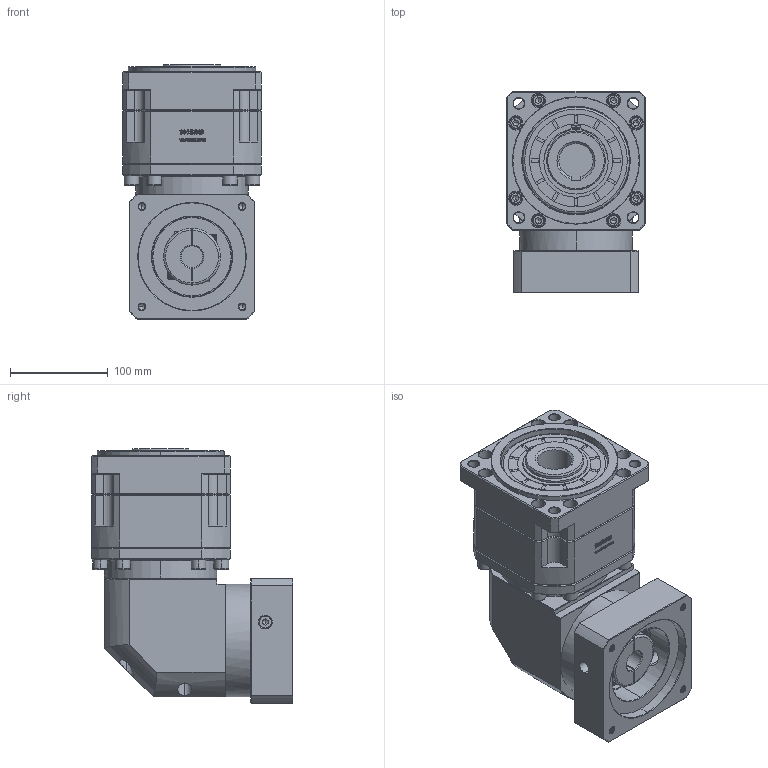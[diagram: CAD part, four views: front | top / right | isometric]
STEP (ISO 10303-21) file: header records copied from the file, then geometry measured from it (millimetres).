
FILE_DESCRIPTION (( 'STEP AP214' ), '1' );
FILE_NAME ('ZBR142A-K35-L2-22-110-145-M8.step', '2023-03-20T04:15:04', ( '' ), ( '' ), 'SwSTEP 2.0', 'SolidWorks 2016', '' );
FILE_SCHEMA (( 'AUTOMOTIVE_DESIGN' ));
Length unit declared in the file: millimetre
Products named in the file (1): ZBR142A-K35-L2-22-110-145-M8
Bounding box: 142 x 205.9 x 260.2 mm (x, y, z)
Volume: 4316553.6 mm3; surface area: 319238.9 mm2
Topology: 6 solids, 6 shells, 3133 faces, 8265 edges, 5299 vertices
Faces by surface type: plane 1645, bspline 586, cylinder 465, cone 393, torus 44
Entity records: 164233 total; most frequent: CARTESIAN_POINT 56745, ORIENTED_EDGE 16426, DIRECTION 12887, EDGE_CURVE 8213, LINE 5531, VECTOR 5531, VERTEX_POINT 5299, AXIS2_PLACEMENT_3D 3678
